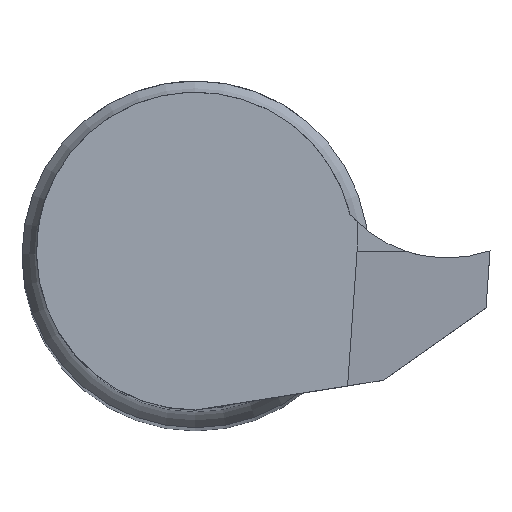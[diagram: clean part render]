
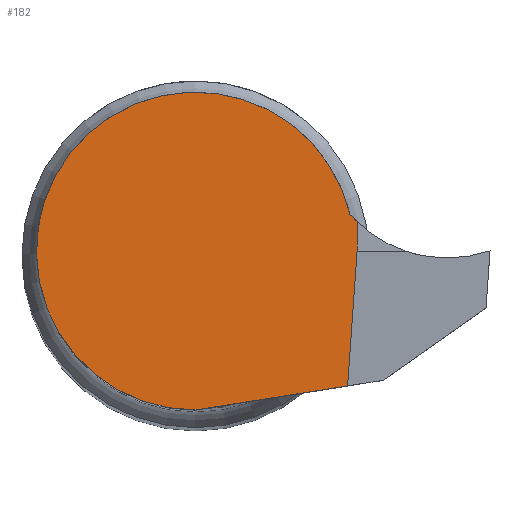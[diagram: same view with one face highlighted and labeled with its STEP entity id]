
A CAD part, top view. The second image highlights one B-rep face of the part: STEP entity #182.
In plain terms, the highlighted planar face has unit normal (0, 0, 1).
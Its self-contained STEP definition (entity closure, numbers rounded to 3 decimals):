
#70=LINE('',#674,#102);
#71=LINE('',#676,#103);
#72=LINE('',#678,#104);
#102=VECTOR('',#553,1.);
#103=VECTOR('',#556,1.);
#104=VECTOR('',#557,1.);
#134=PLANE('',#469);
#155=FACE_OUTER_BOUND('',#231,.T.);
#182=ADVANCED_FACE('',(#155),#134,.T.);
#231=EDGE_LOOP('',(#286,#287,#288,#289,#290));
#286=ORIENTED_EDGE('',*,*,#392,.T.);
#287=ORIENTED_EDGE('',*,*,#405,.T.);
#288=ORIENTED_EDGE('',*,*,#406,.T.);
#289=ORIENTED_EDGE('',*,*,#407,.T.);
#290=ORIENTED_EDGE('',*,*,#408,.F.);
#355=VERTEX_POINT('',#649);
#356=VERTEX_POINT('',#650);
#366=VERTEX_POINT('',#673);
#367=VERTEX_POINT('',#677);
#368=VERTEX_POINT('',#679);
#392=EDGE_CURVE('',#355,#356,#436,.T.);
#405=EDGE_CURVE('',#356,#366,#70,.T.);
#406=EDGE_CURVE('',#366,#367,#71,.T.);
#407=EDGE_CURVE('',#367,#368,#72,.T.);
#408=EDGE_CURVE('',#355,#368,#439,.T.);
#436=CIRCLE('',#463,5.5);
#439=CIRCLE('',#468,4.5);
#463=AXIS2_PLACEMENT_3D('',#648,#535,#536);
#468=AXIS2_PLACEMENT_3D('',#680,#558,#559);
#469=AXIS2_PLACEMENT_3D('',#681,#560,#561);
#535=DIRECTION('',(0.,0.,1.));
#536=DIRECTION('',(1.,0.,0.));
#553=DIRECTION('',(0.988,0.156,0.));
#556=DIRECTION('',(0.07,0.998,0.));
#557=DIRECTION('',(0.,1.,0.));
#558=DIRECTION('',(0.,0.,1.));
#559=DIRECTION('',(-1.,0.,0.));
#560=DIRECTION('',(0.,0.,1.));
#561=DIRECTION('',(1.,0.,0.));
#648=CARTESIAN_POINT('',(0.,0.,-0.278));
#649=CARTESIAN_POINT('',(5.349,1.279,-0.278));
#650=CARTESIAN_POINT('',(0.,-5.5,-0.278));
#673=CARTESIAN_POINT('',(5.269,-4.665,-0.278));
#674=CARTESIAN_POINT('',(0.,-5.5,-0.278));
#676=CARTESIAN_POINT('',(5.178,-5.971,-0.278));
#677=CARTESIAN_POINT('',(5.596,0.,-0.278));
#678=CARTESIAN_POINT('',(5.596,-6.,-0.278));
#679=CARTESIAN_POINT('',(5.596,1.022,-0.278));
#680=CARTESIAN_POINT('',(8.718,4.262,-0.278));
#681=CARTESIAN_POINT('',(0.,0.,-0.278));
